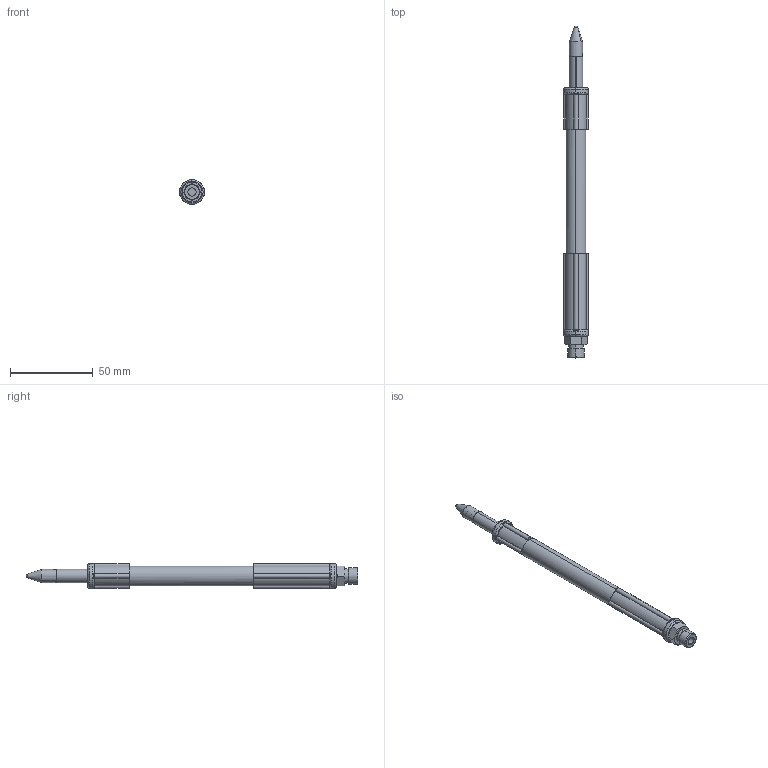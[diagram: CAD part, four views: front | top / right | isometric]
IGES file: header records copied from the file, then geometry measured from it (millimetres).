
Start section: SolidWorks IGES file using analytic representation for surfaces
Global section: file name: G:\Silvent\Ritningar\Övrigt\IGES\Silvent 620.IGS; native system: SolidWorks 2011; preprocessor: SolidWorks 2011; author: silvpesv; date: 120920.103838; units: millimetre
Bounding box: 15 x 200.3 x 15 mm (x, y, z)
Surface area: 11288.7 mm2 (no closed solid volume)
Topology: 0 solids, 0 shells, 133 faces, 1686 edges, 1677 vertices
Faces by surface type: revolution 72, bspline 61
